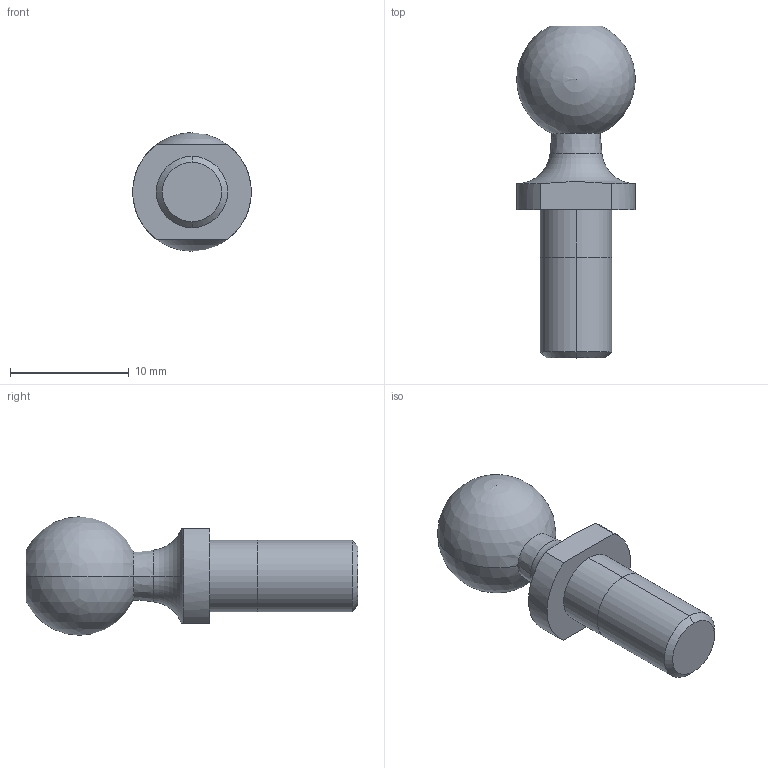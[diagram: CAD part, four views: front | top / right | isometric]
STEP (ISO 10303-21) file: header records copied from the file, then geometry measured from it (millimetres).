
FILE_DESCRIPTION (( 'STEP AP203' ), '1' );
FILE_NAME ('65550.W0006.step', '2014-02-03T10:40:43', ( 'User' ), ( '' ), 'SwSTEP 2.0', 'SolidWorks 2009', '' );
FILE_SCHEMA (( 'CONFIG_CONTROL_DESIGN' ));
Length unit declared in the file: millimetre
Products named in the file (1): 65550.W0006
Bounding box: 10 x 28 x 10 mm (x, y, z)
Volume: 1114.5 mm3; surface area: 768 mm2
Topology: 1 solids, 1 shells, 20 faces, 47 edges, 29 vertices
Faces by surface type: cylinder 6, plane 6, cone 4, sphere 2, torus 2
Entity records: 643 total; most frequent: CARTESIAN_POINT 115, DIRECTION 108, ORIENTED_EDGE 84, AXIS2_PLACEMENT_3D 47, EDGE_CURVE 42, VERTEX_POINT 26, CIRCLE 26, EDGE_LOOP 22
